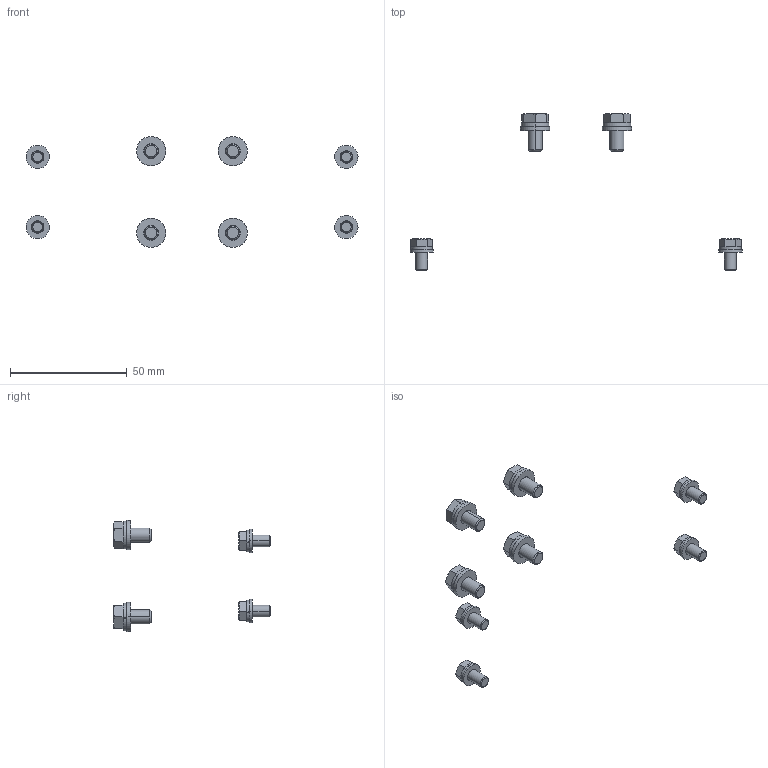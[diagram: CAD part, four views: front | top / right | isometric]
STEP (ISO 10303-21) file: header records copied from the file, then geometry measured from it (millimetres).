
FILE_DESCRIPTION((''),'2;1');
FILE_NAME('NUR-SCHR','2015-04-30T',('DEX218155'),(''),'PRO/ENGINEER BY PARAMETRIC TECHNOLOGY CORPORATION, 2015030','PRO/ENGINEER BY PARAMETRIC TECHNOLOGY CORPORATION, 2015030','');
FILE_SCHEMA(('CONFIG_CONTROL_DESIGN'));
Length unit declared in the file: millimetre
Products named in the file (1): NUR-SCHR
Bounding box: 142 x 67 x 47.5 mm (x, y, z)
Volume: 5780.4 mm3; surface area: 5296 mm2
Topology: 8 solids, 8 shells, 316 faces, 736 edges, 444 vertices
Faces by surface type: plane 164, cylinder 80, cone 48, torus 24
Entity records: 10301 total; most frequent: CARTESIAN_POINT 3145, DIRECTION 1496, ORIENTED_EDGE 1472, EDGE_CURVE 736, AXIS2_PLACEMENT_3D 596, VERTEX_POINT 444, EDGE_LOOP 340, FACE_OUTER_BOUND 316
